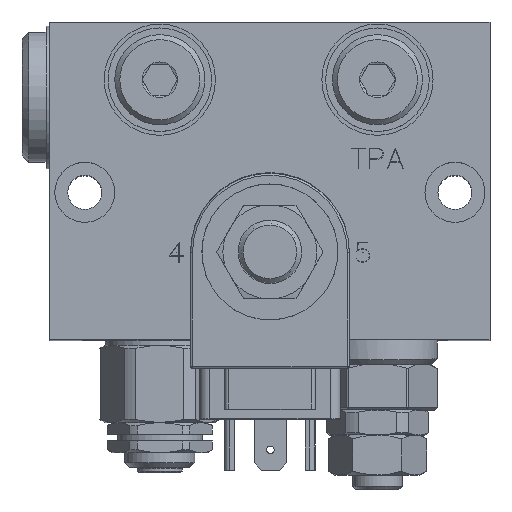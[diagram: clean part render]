
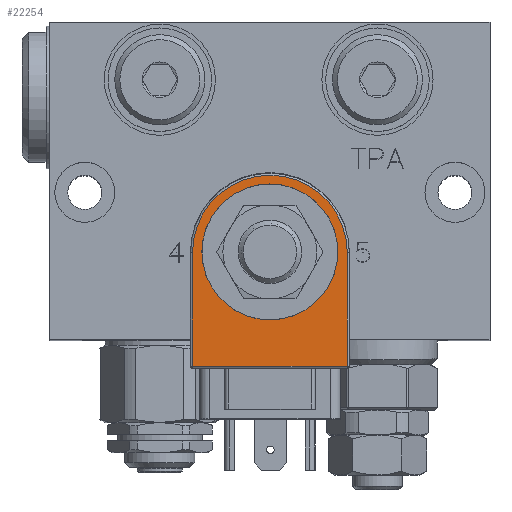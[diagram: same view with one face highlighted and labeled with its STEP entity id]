
A CAD part, top view. The second image highlights one B-rep face of the part: STEP entity #22254.
In plain terms, the highlighted planar face has unit normal (0, 0, 1).
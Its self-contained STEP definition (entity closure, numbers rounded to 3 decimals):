
#2786=LINE('',#40575,#3777);
#2787=LINE('',#40578,#3778);
#2788=LINE('',#40582,#3779);
#3777=VECTOR('',#30030,1000.);
#3778=VECTOR('',#30031,1000.);
#3779=VECTOR('',#30034,1000.);
#4656=PLANE('',#24885);
#10402=ORIENTED_EDGE('',*,*,#13756,.T.);
#10403=ORIENTED_EDGE('',*,*,#13757,.T.);
#10404=ORIENTED_EDGE('',*,*,#13758,.T.);
#10405=ORIENTED_EDGE('',*,*,#13759,.T.);
#10406=ORIENTED_EDGE('',*,*,#13760,.T.);
#13756=EDGE_CURVE('',#15988,#15989,#2786,.F.);
#13757=EDGE_CURVE('',#15989,#15990,#2787,.F.);
#13758=EDGE_CURVE('',#15990,#15991,#16732,.F.);
#13759=EDGE_CURVE('',#15991,#15988,#2788,.F.);
#13760=EDGE_CURVE('',#15992,#15992,#16733,.T.);
#15988=VERTEX_POINT('',#40576);
#15989=VERTEX_POINT('',#40577);
#15990=VERTEX_POINT('',#40579);
#15991=VERTEX_POINT('',#40581);
#15992=VERTEX_POINT('',#40584);
#16732=CIRCLE('',#24886,15.475);
#16733=CIRCLE('',#24887,13.59);
#18603=EDGE_LOOP('',(#10402,#10403,#10404,#10405));
#18604=EDGE_LOOP('',(#10406));
#20535=FACE_BOUND('',#18603,.T.);
#20536=FACE_BOUND('',#18604,.T.);
#22254=ADVANCED_FACE('',(#20535,#20536),#4656,.F.);
#24885=AXIS2_PLACEMENT_3D('',#40574,#30028,#30029);
#24886=AXIS2_PLACEMENT_3D('',#40580,#30032,#30033);
#24887=AXIS2_PLACEMENT_3D('',#40583,#30035,#30036);
#30028=DIRECTION('',(0.,0.,-1.));
#30029=DIRECTION('',(-1.,0.,0.));
#30030=DIRECTION('',(-1.,0.,0.));
#30031=DIRECTION('',(0.,-1.,0.));
#30032=DIRECTION('',(0.,0.,-1.));
#30033=DIRECTION('',(-1.,0.,0.));
#30034=DIRECTION('',(0.,1.,0.));
#30035=DIRECTION('',(0.,0.,-1.));
#30036=DIRECTION('',(0.,-1.,0.));
#40574=CARTESIAN_POINT('',(0.,-0.155,45.06));
#40575=CARTESIAN_POINT('',(0.,-22.855,45.06));
#40576=CARTESIAN_POINT('',(-15.475,-22.855,45.06));
#40577=CARTESIAN_POINT('',(15.475,-22.855,45.06));
#40578=CARTESIAN_POINT('',(15.475,-0.155,45.06));
#40579=CARTESIAN_POINT('',(15.475,-0.155,45.06));
#40580=CARTESIAN_POINT('',(0.,-0.155,45.06));
#40581=CARTESIAN_POINT('',(-15.475,-0.155,45.06));
#40582=CARTESIAN_POINT('',(-15.475,-0.155,45.06));
#40583=CARTESIAN_POINT('',(0.,0.,45.06));
#40584=CARTESIAN_POINT('',(0.,-13.59,45.06));
